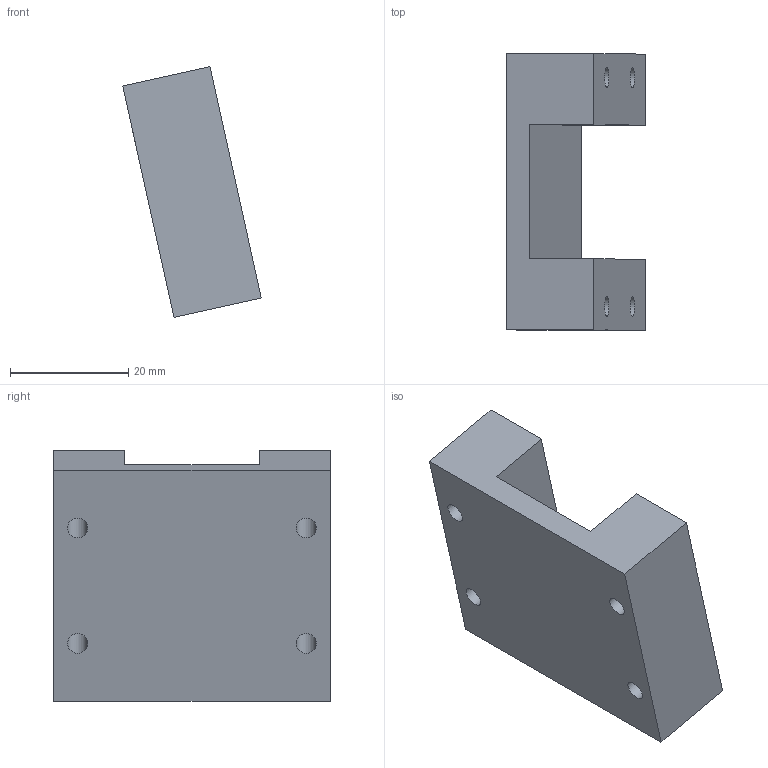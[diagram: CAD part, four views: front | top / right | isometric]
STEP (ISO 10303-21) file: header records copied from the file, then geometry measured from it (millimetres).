
FILE_DESCRIPTION(('Open CASCADE Model'),'2;1');
FILE_NAME('Open CASCADE Shape Model','2026-10-17T22:15:36',('Author'),( 'Open CASCADE'),'Open CASCADE STEP processor 7.9','Open CASCADE 7.9' ,'Unknown');
FILE_SCHEMA(('AUTOMOTIVE_DESIGN { 1 0 10303 214 1 1 1 1 }'));
Length unit declared in the file: millimetre
Products named in the file (1): Open CASCADE STEP translator 7.9 7
Bounding box: 23.37 x 46.65 x 42.31 mm (x, y, z)
Volume: 17548.5 mm3; surface area: 7300.3 mm2
Topology: 1 solids, 1 shells, 14 faces, 36 edges, 24 vertices
Faces by surface type: plane 10, cylinder 4
Full cylindrical faces by diameter (mm): 3.4 x4
Entity records: 930 total; most frequent: CARTESIAN_POINT 211, DIRECTION 122, LINE 76, VECTOR 76, ORIENTED_EDGE 72, PCURVE 72, DEFINITIONAL_REPRESENTATION 72, EDGE_CURVE 36
